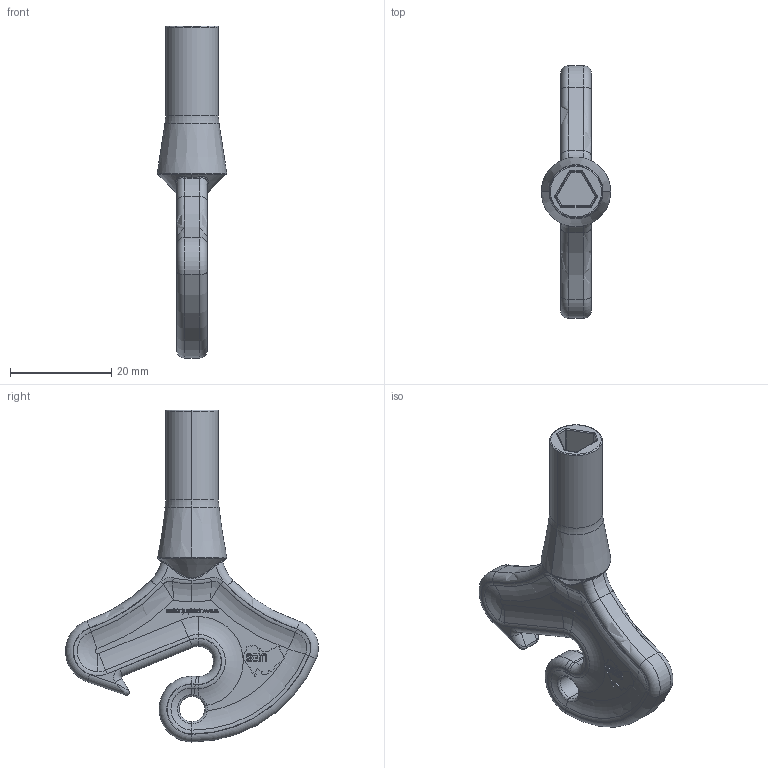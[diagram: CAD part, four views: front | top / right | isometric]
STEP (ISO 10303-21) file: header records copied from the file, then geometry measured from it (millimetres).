
FILE_DESCRIPTION (( 'STEP AP214' ), '1' );
FILE_NAME ('E3K7T.STEP', '2020-11-02T23:39:13', ( '' ), ( '' ), 'SwSTEP 2.0', 'SolidWorks 2018', '' );
FILE_SCHEMA (( 'AUTOMOTIVE_DESIGN' ));
Length unit declared in the file: millimetre
Products named in the file (1): E3K7T
Bounding box: 13.75 x 49.97 x 65.6 mm (x, y, z)
Volume: 7488.5 mm3; surface area: 4271.3 mm2
Topology: 1 solids, 1 shells, 497 faces, 1309 edges, 823 vertices
Faces by surface type: plane 234, bspline 118, torus 87, cylinder 47, sphere 7, cone 4
Entity records: 21576 total; most frequent: CARTESIAN_POINT 10018, ORIENTED_EDGE 2594, DIRECTION 2073, EDGE_CURVE 1297, VERTEX_POINT 823, VECTOR 761, LINE 761, AXIS2_PLACEMENT_3D 656
